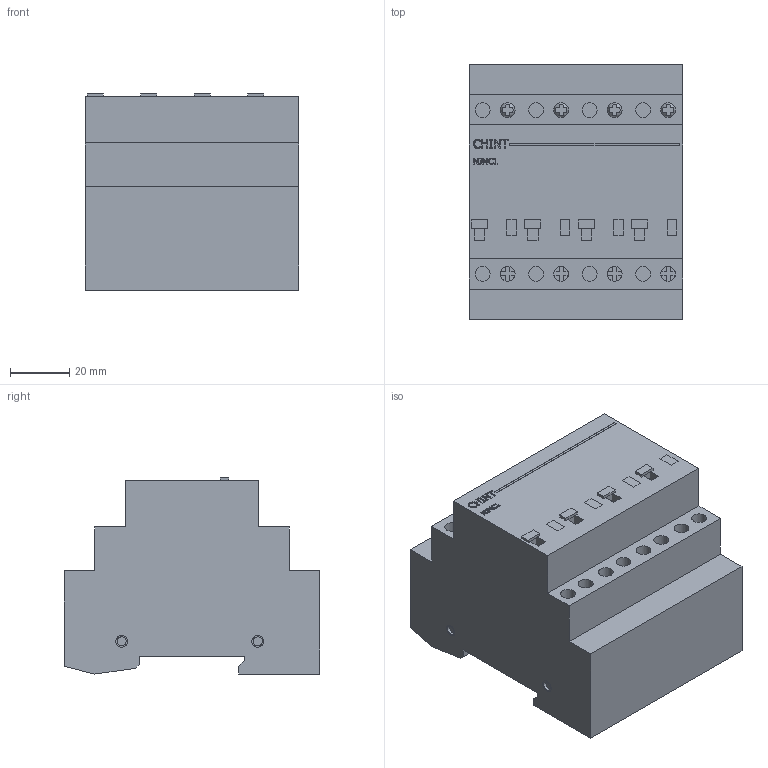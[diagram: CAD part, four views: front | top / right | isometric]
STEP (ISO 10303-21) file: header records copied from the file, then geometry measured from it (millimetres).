
FILE_DESCRIPTION(/* description */ (''),/* implementation_level */ '2;1');
FILE_NAME(/* name */ 'D:\CHINT\NJMC1\Импульсное реле NJMC1 4P (CHINT).stp',/* time_stamp */ '2017-09-30T15:37:55+04:00',/* author */ ('RSagdiev'),/* organization */ (''),/* preprocessor_version */ 'ST-DEVELOPER v16.5',/* originating_system */ 'Autodesk Inventor 2017',/* authorisation */ '');
FILE_SCHEMA (('AUTOMOTIVE_DESIGN { 1 0 10303 214 3 1 1 }'));
Length unit declared in the file: millimetre
Products named in the file (1): Импульсное \X2\0440
0435043B0435\X0\ NJMC1 4P (CHINT)
Bounding box: 72 x 86 x 66 mm (x, y, z)
Surface area: 71006.2 mm2
Topology: 38 solids, 50 shells, 637 faces, 1422 edges, 960 vertices
Faces by surface type: plane 495, cylinder 96, bspline 46
Full cylindrical faces by diameter (mm): 3 x16, 4 x36, 5 x44
Entity records: 17682 total; most frequent: CARTESIAN_POINT 3906, DIRECTION 2646, ORIENTED_EDGE 2628, EDGE_CURVE 1314, LINE 950, VECTOR 950, VERTEX_POINT 940, AXIS2_PLACEMENT_3D 848
